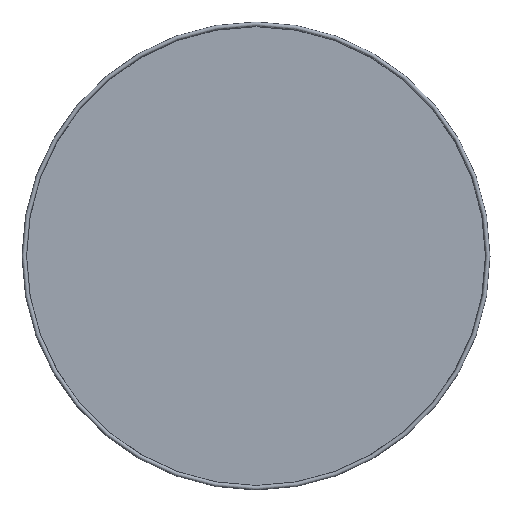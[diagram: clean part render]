
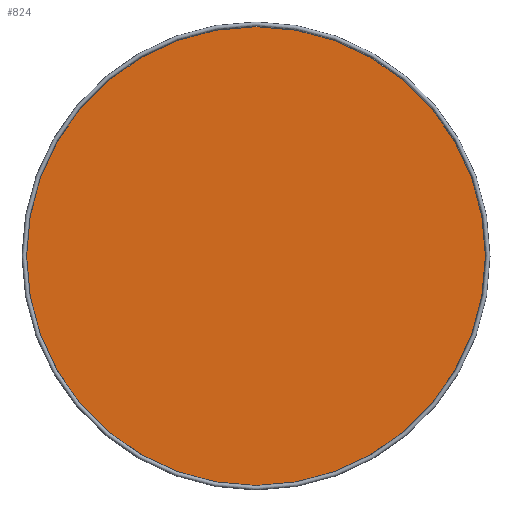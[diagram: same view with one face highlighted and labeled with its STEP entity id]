
A CAD part, top view. The second image highlights one B-rep face of the part: STEP entity #824.
In plain terms, the highlighted planar face has unit normal (0, 0, 1).
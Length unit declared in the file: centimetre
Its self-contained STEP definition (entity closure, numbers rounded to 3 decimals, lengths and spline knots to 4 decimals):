
#186=FACE_OUTER_BOUND('',#252,.T.);
#252=EDGE_LOOP('',(#570));
#353=CIRCLE('',#909,54.65);
#405=VERTEX_POINT('',#1308);
#475=EDGE_CURVE('',#405,#405,#353,.T.);
#570=ORIENTED_EDGE('',*,*,#475,.F.);
#726=PLANE('',#910);
#824=ADVANCED_FACE('',(#186),#726,.T.);
#909=AXIS2_PLACEMENT_3D('',#1309,#1069,#1070);
#910=AXIS2_PLACEMENT_3D('',#1310,#1071,#1072);
#1069=DIRECTION('center_axis',(0.,0.,-1.));
#1070=DIRECTION('ref_axis',(-1.,0.,0.));
#1071=DIRECTION('center_axis',(0.,0.,1.));
#1072=DIRECTION('ref_axis',(1.,0.,0.));
#1308=CARTESIAN_POINT('',(54.65,-5.8,2.271));
#1309=CARTESIAN_POINT('Origin',(0.,-5.8,2.271));
#1310=CARTESIAN_POINT('Origin',(0.,-5.8,2.271));
